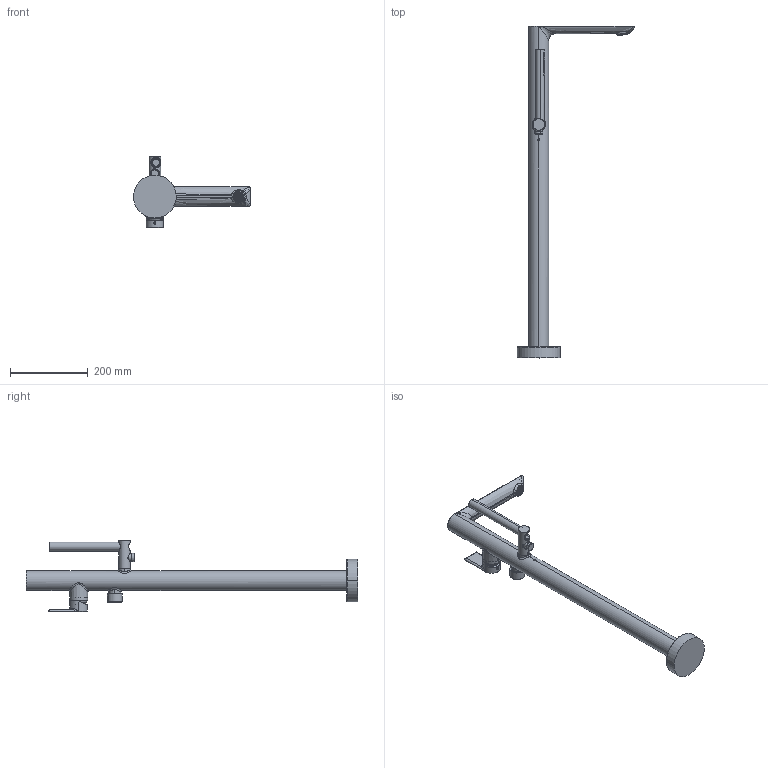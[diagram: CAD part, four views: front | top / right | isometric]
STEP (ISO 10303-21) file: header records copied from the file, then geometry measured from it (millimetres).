
FILE_DESCRIPTION (( 'STEP AP214' ), '1' );
FILE_NAME ('80117910 x architetti.STEP', '2025-01-10T10:50:58', ( '' ), ( '' ), 'SwSTEP 2.0', 'SolidWorks 2020', '' );
FILE_SCHEMA (( 'AUTOMOTIVE_DESIGN' ));
Length unit declared in the file: millimetre
Products named in the file (3): 80117910 x architetti; F0318010       
Assembly tree (2 placements, depth 2):
  80117910 x architetti
    80117910 x architetti
    F0318010       
Bounding box: 301.22 x 854 x 183.29 mm (x, y, z)
Volume: 2390860.8 mm3; surface area: 252075.3 mm2
Topology: 2 solids, 12 shells, 1376 faces, 3707 edges, 2433 vertices
Faces by surface type: plane 976, cylinder 253, bspline 90, cone 38, torus 15, sphere 4
Entity records: 93304 total; most frequent: CARTESIAN_POINT 46356, ORIENTED_EDGE 7398, DIRECTION 5383, EDGE_CURVE 3699, VERTEX_POINT 2433, VECTOR 2237, LINE 2237, EDGE_LOOP 1812
